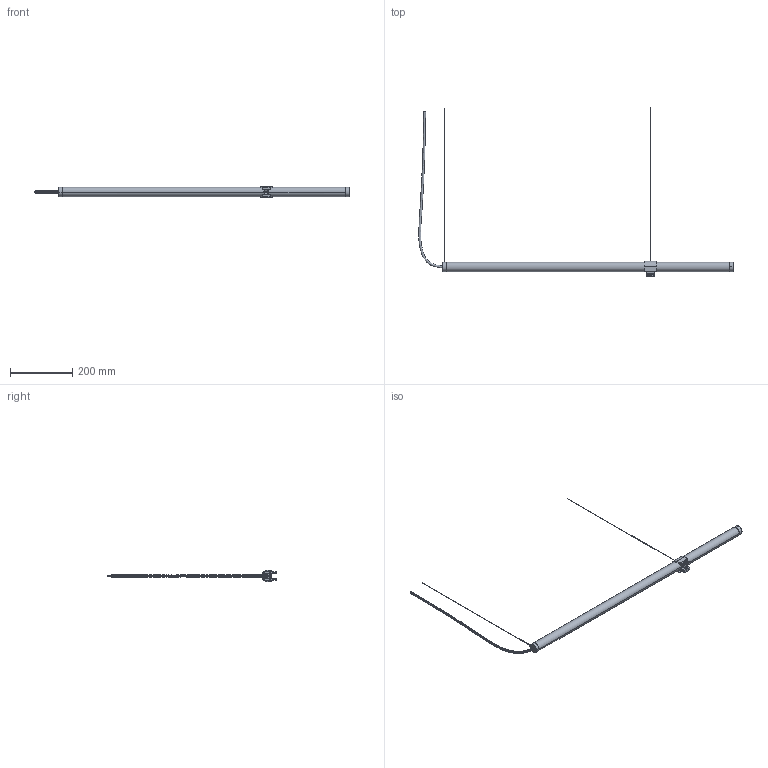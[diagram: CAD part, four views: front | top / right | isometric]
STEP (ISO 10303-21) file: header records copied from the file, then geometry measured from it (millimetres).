
FILE_DESCRIPTION (( 'STEP AP214' ), '1' );
FILE_NAME ('ACTUCCXXEXLA1XX.STEP', '2023-08-29T07:39:10', ( '' ), ( '' ), 'SwSTEP 2.0', 'SolidWorks 2023', '' );
FILE_SCHEMA (( 'AUTOMOTIVE_DESIGN' ));
Length unit declared in the file: millimetre
Products named in the file (7): WSCP2E0003-1400-02; WSCP2E0012-1400-01; WSVBPAR091225XX-00; ACTUCCXXEXLA1XX; WSCA01193000B2830B; ACCAVOEL2X001XX; WSCP2E0046-1400-00
Assembly tree (7 placements, depth 2):
  ACTUCCXXEXLA1XX
    WSVBPAR091225XX-00
    WSCP2E0003-1400-02
    WSCP2E0012-1400-01
    WSCP2E0046-1400-00
    WSCA01193000B2830B  x2
    ACCAVOEL2X001XX
Bounding box: 1012.82 x 543.11 x 36.2 mm (x, y, z)
Volume: 263929.7 mm3; surface area: 214854.1 mm2
Topology: 14 solids, 14 shells, 1804 faces, 4330 edges, 2353 vertices
Faces by surface type: cylinder 720, torus 472, plane 226, bspline 189, sphere 185, cone 12
Entity records: 64826 total; most frequent: CARTESIAN_POINT 24967, DIRECTION 9065, ORIENTED_EDGE 8034, EDGE_CURVE 4017, AXIS2_PLACEMENT_3D 3913, CIRCLE 2295, VERTEX_POINT 2249, EDGE_LOOP 1834
